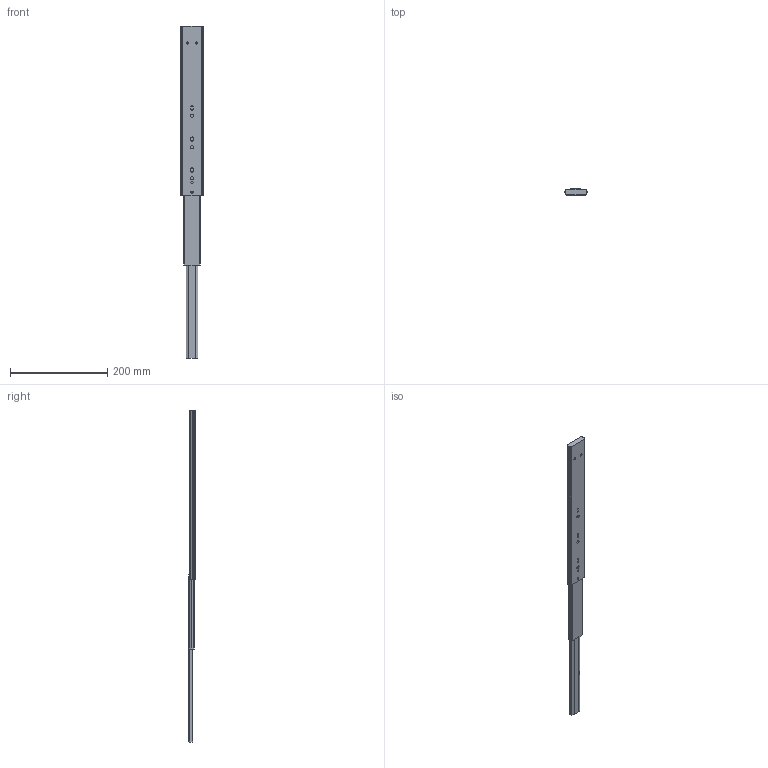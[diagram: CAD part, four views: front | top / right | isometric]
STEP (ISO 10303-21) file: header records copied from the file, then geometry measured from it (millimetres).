
FILE_DESCRIPTION (( 'STEP AP203' ), '1' );
FILE_NAME ('4587114H(嶺).STEP', '2020-02-13T09:01:06', ( 'ZZG' ), ( 'Microsoft' ), 'SwSTEP 2.0', 'SolidWorks 2012', '' );
FILE_SCHEMA (( 'CONFIG_CONTROL_DESIGN' ));
Length unit declared in the file: millimetre
Products named in the file (1): 4587114H(嶺)
Bounding box: 45.57 x 12.7 x 683 mm (x, y, z)
Volume: 259365.7 mm3; surface area: 61825.4 mm2
Topology: 1 solids, 1 shells, 213 faces, 576 edges, 383 vertices
Faces by surface type: cylinder 105, plane 96, bspline 6, cone 6
Entity records: 7026 total; most frequent: CARTESIAN_POINT 1416, DIRECTION 1197, ORIENTED_EDGE 1152, EDGE_CURVE 576, AXIS2_PLACEMENT_3D 436, VERTEX_POINT 383, LINE 325, VECTOR 325
